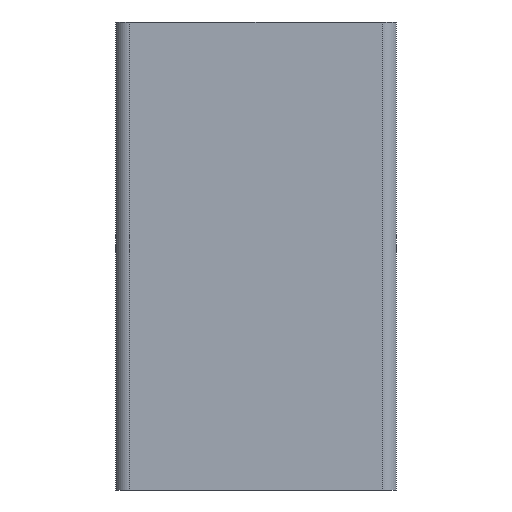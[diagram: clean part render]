
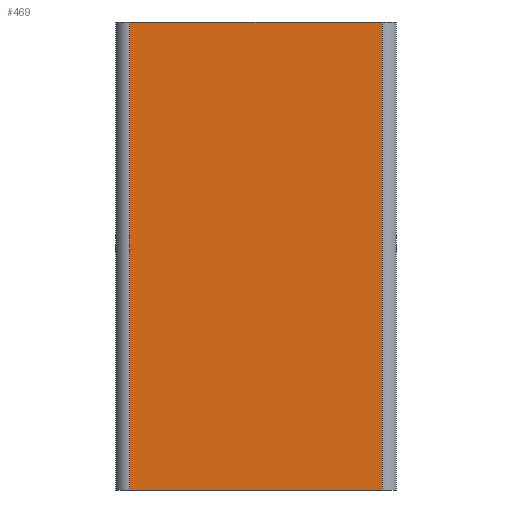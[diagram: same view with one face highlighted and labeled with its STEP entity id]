
A CAD part, front view. The second image highlights one B-rep face of the part: STEP entity #469.
In plain terms, the highlighted planar face has unit normal (0, -1, 0).
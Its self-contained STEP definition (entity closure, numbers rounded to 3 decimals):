
#6 = CARTESIAN_POINT ( 'NONE',  ( -27., -15., 0. ) ) ;
#11 = CARTESIAN_POINT ( 'NONE',  ( -27., -15., 100. ) ) ;
#22 = EDGE_CURVE ( 'NONE', #664, #1889, #681, .T. ) ;
#26 = ORIENTED_EDGE ( 'NONE', *, *, #22, .F. ) ;
#98 = CARTESIAN_POINT ( 'NONE',  ( -27., -15., 100. ) ) ;
#100 = CARTESIAN_POINT ( 'NONE',  ( 27., -15., 0. ) ) ;
#192 = ORIENTED_EDGE ( 'NONE', *, *, #636, .T. ) ;
#256 = FACE_OUTER_BOUND ( 'NONE', #355, .T. ) ;
#288 = DIRECTION ( 'NONE',  ( 1., 0., 0. ) ) ;
#346 = AXIS2_PLACEMENT_3D ( 'NONE', #742, #891, #1952 ) ;
#355 = EDGE_LOOP ( 'NONE', ( #192, #1869, #26, #1132 ) ) ;
#436 = DIRECTION ( 'NONE',  ( 0., 0., -1. ) ) ;
#469 = ADVANCED_FACE ( 'NONE', ( #256 ), #1482, .F. ) ;
#521 = VERTEX_POINT ( 'NONE', #785 ) ;
#636 = EDGE_CURVE ( 'NONE', #521, #1966, #1520, .T. ) ;
#664 = VERTEX_POINT ( 'NONE', #11 ) ;
#681 = LINE ( 'NONE', #1380, #1903 ) ;
#730 = CARTESIAN_POINT ( 'NONE',  ( 27., -15., 100. ) ) ;
#742 = CARTESIAN_POINT ( 'NONE',  ( -27., -15., 100. ) ) ;
#785 = CARTESIAN_POINT ( 'NONE',  ( -27., -15., 0. ) ) ;
#872 = DIRECTION ( 'NONE',  ( 0., 0., -1. ) ) ;
#891 = DIRECTION ( 'NONE',  ( 0., 1., 0. ) ) ;
#1097 = VECTOR ( 'NONE', #872, 1000. ) ;
#1132 = ORIENTED_EDGE ( 'NONE', *, *, #1580, .T. ) ;
#1257 = LINE ( 'NONE', #1320, #1588 ) ;
#1320 = CARTESIAN_POINT ( 'NONE',  ( 27., -15., 100. ) ) ;
#1380 = CARTESIAN_POINT ( 'NONE',  ( -27., -15., 100. ) ) ;
#1482 = PLANE ( 'NONE',  #346 ) ;
#1520 = LINE ( 'NONE', #6, #1858 ) ;
#1560 = DIRECTION ( 'NONE',  ( 1., 0., 0. ) ) ;
#1580 = EDGE_CURVE ( 'NONE', #664, #521, #1611, .T. ) ;
#1588 = VECTOR ( 'NONE', #436, 1000. ) ;
#1589 = EDGE_CURVE ( 'NONE', #1889, #1966, #1257, .T. ) ;
#1611 = LINE ( 'NONE', #98, #1097 ) ;
#1858 = VECTOR ( 'NONE', #1560, 1000. ) ;
#1869 = ORIENTED_EDGE ( 'NONE', *, *, #1589, .F. ) ;
#1889 = VERTEX_POINT ( 'NONE', #730 ) ;
#1903 = VECTOR ( 'NONE', #288, 1000. ) ;
#1952 = DIRECTION ( 'NONE',  ( -1., 0., 0. ) ) ;
#1966 = VERTEX_POINT ( 'NONE', #100 ) ;
